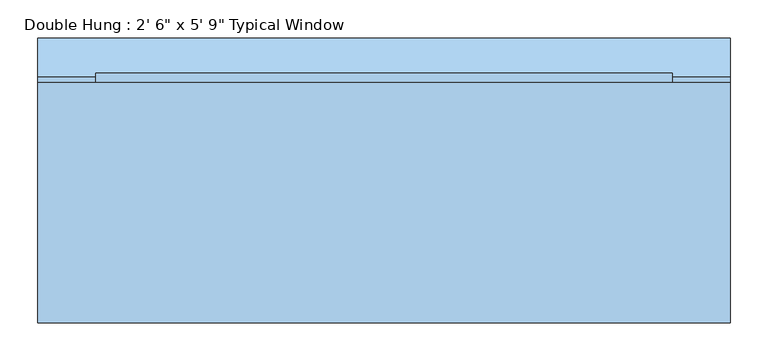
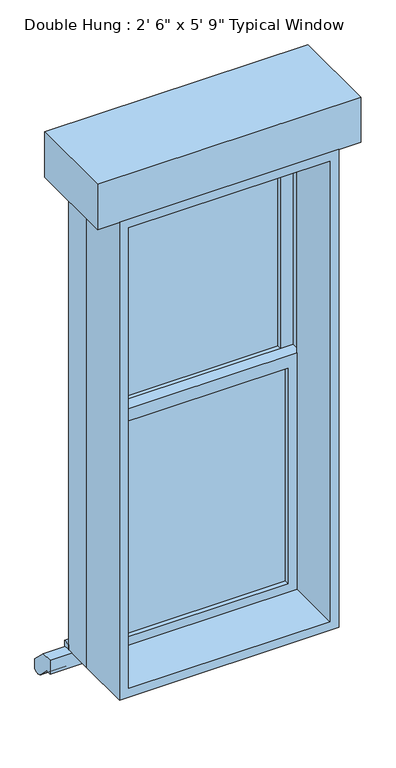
"""IFC4 building model written with IfcOpenShell, lengths in millimetres: window geometry."""

from ifc_helpers import new_model, si_unit, point, frame, frame_2d, origin, place, context, project, spatial, polyline, circle_curve, trimmed, segment, composite_curve, outline, extrude, source, transform, mapped, element, save


def window_3f22af70(model_context):
    return source(origin(), model_context, "Body", "SweptSolid", [
        extrude(outline(polyline([(-317.5, 73.025), (317.5, 73.025), (317.5, 60.325), (-317.5, 60.325), (-317.5, 73.025)])), frame((0.0, 0.0, 673.1), z_axis=(0.0, 0.0, 1.0), x_axis=(1.0, 0.0, 0.0)), (0.0, 0.0, 1.0), 790.575),
        extrude(outline(polyline([(1508.125, -361.95), (628.65, -361.95), (628.65, 361.95), (1508.125, 361.95), (1508.125, -361.95)]), holes=[polyline([(1463.675, -317.5), (1463.675, 317.5), (673.1, 317.5), (673.1, -317.5), (1463.675, -317.5)])]), frame((0.0, 44.45, 0.0), z_axis=(0.0, 1.0, 0.0), x_axis=(0.0, 0.0, 1.0)), (0.0, 0.0, 1.0), 44.45),
        extrude(outline(polyline([(-381.0, 177.8), (381.0, 177.8), (381.0, 152.4), (-381.0, 152.4), (-381.0, 177.8)])), frame((0.0, 0.0, 609.6), z_axis=(0.0, 0.0, 1.0), x_axis=(1.0, 0.0, 0.0)), (0.0, 0.0, 1.0), 19.05),
        extrude(outline(polyline([(317.5, 104.775), (-317.5, 104.775), (-317.5, 117.475), (317.5, 117.475), (317.5, 104.775)])), frame((0.0, 0.0, 1508.125), z_axis=(0.0, 0.0, 1.0), x_axis=(1.0, 0.0, 0.0)), (0.0, 0.0, 1.0), 790.575),
        extrude(outline(polyline([(2343.15, -361.95), (1463.675, -361.95), (1463.675, 361.95), (2343.15, 361.95), (2343.15, -361.95)]), holes=[polyline([(2298.7, -317.5), (2298.7, 317.5), (1508.125, 317.5), (1508.125, -317.5), (2298.7, -317.5)])]), frame((0.0, 88.9, 0.0), z_axis=(0.0, 1.0, 0.0), x_axis=(0.0, 0.0, 1.0)), (0.0, 0.0, 1.0), 44.45),
        extrude(outline(polyline([(2362.2, -381.0), (609.6, -381.0), (609.6, 381.0), (2362.2, 381.0), (2362.2, -381.0)]), holes=[polyline([(2330.45, -349.25), (2330.45, 349.25), (641.35, 349.25), (641.35, -349.25), (2330.45, -349.25)])]), frame((0.0, -152.4, 0.0), z_axis=(0.0, 1.0, 0.0), x_axis=(0.0, 0.0, 1.0)), (0.0, 0.0, 1.0), 196.85),
        extrude(outline(polyline([(2362.2, 381.0), (2362.2, -381.0), (609.6, -381.0), (609.6, 381.0), (2362.2, 381.0)]), holes=[polyline([(2343.15, 361.95), (628.65, 361.95), (628.65, -361.95), (2343.15, -361.95), (2343.15, 361.95)])]), frame((0.0, 44.45, 0.0), z_axis=(0.0, 1.0, 0.0), x_axis=(0.0, 0.0, 1.0)), (0.0, 0.0, 1.0), 107.95),
        extrude(outline(composite_curve([segment(polyline([(133.35, 609.6), (173.442049, 609.6), (224.242049, 558.8), (224.242049, 522.8789755)]), True, "CONTINUOUS"), segment(trimmed(circle_curve(frame_2d((206.2815367, 540.8394878)), 25.4), [point((224.242049, 522.8789755))], [point((188.3210245, 522.8789755))], False, "CARTESIAN"), True, "CONTINUOUS"), segment(polyline([(188.3210245, 522.8789755), (152.4, 558.8), (133.35, 558.8), (133.35, 609.6)]), True, "CONTINUOUS")], self_intersect=False)), frame((-457.2, 0.0, 0.0), z_axis=(1.0, 0.0, 0.0), x_axis=(0.0, 1.0, 0.0)), (0.0, 0.0, 1.0), 914.4),
        extrude(outline(polyline([(457.2, 165.1), (457.2, -152.4), (-457.2, -152.4), (-457.2, 165.1), (457.2, 165.1)])), frame((0.0, 0.0, 2362.2), z_axis=(0.0, 0.0, 1.0), x_axis=(1.0, 0.0, 0.0)), (0.0, 0.0, 1.0), 165.1),
    ])


if __name__ == "__main__":
    model = new_model("IFC4")
    model_context = context("Model", 3, world=origin())
    ifc_project = project(units=[si_unit("LENGTHUNIT", "METRE", prefix="MILLI")], contexts=[model_context])
    site = spatial("IfcSite", under=ifc_project)
    building = spatial("IfcBuilding", under=site)
    placement = place(None, origin())
    window_shape = window_3f22af70(model_context)
    element("IfcWindow", 1, ObjectType="Double Hung : 2' 6\" x 5' 9\" Typical Window", at=placement, inside=building, context=model_context, shape_type="MappedRepresentation", body=[
        mapped(window_shape, transform((0.0, 0.0, 0.0), x_axis=(1.0, 0.0, 0.0), y_axis=(0.0, 1.0, 0.0), z_axis=(0.0, 0.0, 1.0))),
    ])
    save(model, "model.ifc")
